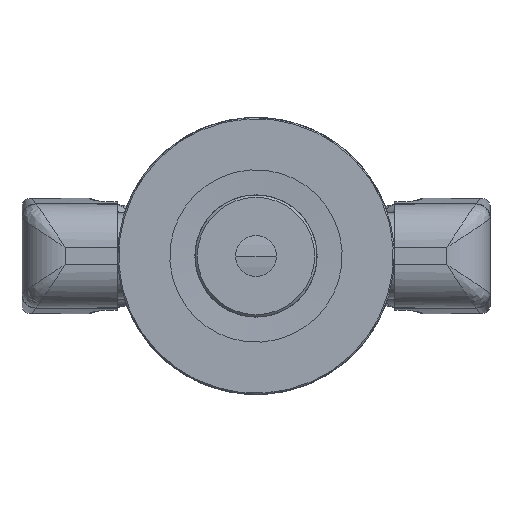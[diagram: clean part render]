
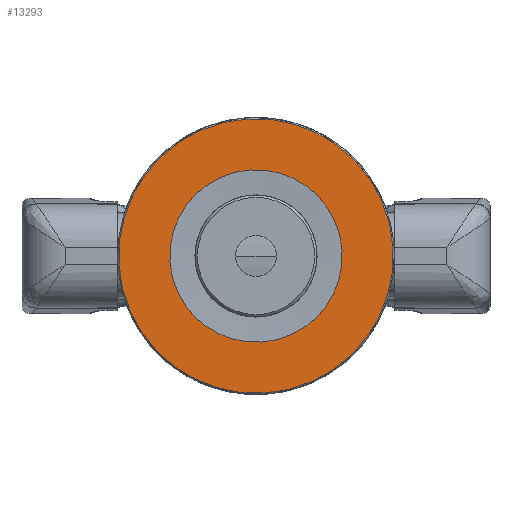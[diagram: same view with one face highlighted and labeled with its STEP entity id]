
A CAD part, front view. The second image highlights one B-rep face of the part: STEP entity #13293.
In plain terms, the highlighted planar face has unit normal (0, -1, 0) as drawn and (0, 0, -1) by its records, which use the part's own axes.
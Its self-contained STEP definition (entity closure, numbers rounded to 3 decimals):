
#276=FACE_BOUND('',#3990,.T.);
#695=CIRCLE('',#14285,22.3);
#697=CIRCLE('',#14289,14.);
#2378=PLANE('',#14288);
#3146=FACE_OUTER_BOUND('',#3989,.T.);
#3989=EDGE_LOOP('',(#12144));
#3990=EDGE_LOOP('',(#12145));
#6157=VERTEX_POINT('',#43714);
#6159=VERTEX_POINT('',#43720);
#8156=EDGE_CURVE('',#6157,#6157,#695,.T.);
#8158=EDGE_CURVE('',#6159,#6159,#697,.T.);
#12144=ORIENTED_EDGE('',*,*,#8156,.F.);
#12145=ORIENTED_EDGE('',*,*,#8158,.F.);
#13293=ADVANCED_FACE('',(#3146,#276),#2378,.F.);
#14285=AXIS2_PLACEMENT_3D('',#43715,#16813,#16814);
#14288=AXIS2_PLACEMENT_3D('',#43719,#16819,#16820);
#14289=AXIS2_PLACEMENT_3D('',#43721,#16821,#16822);
#16813=DIRECTION('center_axis',(0.,0.,1.));
#16814=DIRECTION('ref_axis',(-1.,0.,0.));
#16819=DIRECTION('center_axis',(0.,0.,1.));
#16820=DIRECTION('ref_axis',(1.,0.,0.));
#16821=DIRECTION('center_axis',(0.,0.,-1.));
#16822=DIRECTION('ref_axis',(-1.,0.,0.));
#43714=CARTESIAN_POINT('',(22.3,0.,0.));
#43715=CARTESIAN_POINT('Origin',(0.,0.,0.));
#43719=CARTESIAN_POINT('Origin',(0.,0.,0.));
#43720=CARTESIAN_POINT('',(14.,0.,0.));
#43721=CARTESIAN_POINT('Origin',(0.,0.,0.));
